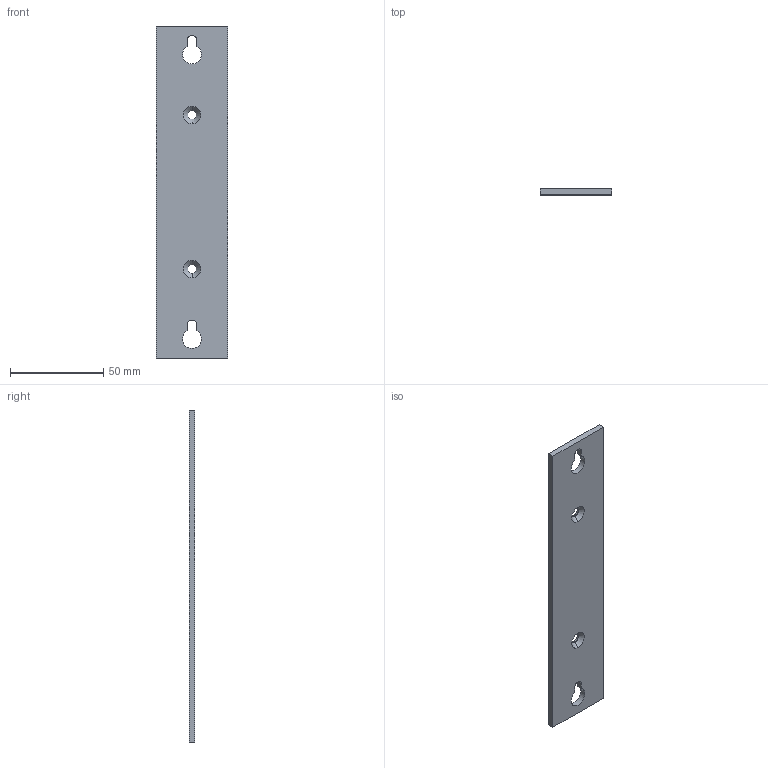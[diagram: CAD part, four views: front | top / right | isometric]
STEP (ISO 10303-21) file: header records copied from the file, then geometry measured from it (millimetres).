
FILE_DESCRIPTION((''),'2;1');
FILE_NAME('CU_CFP_PANEL_MOUNT_VER','2007-07-16T',('chrisj'),(''),'PRO/ENGINEER BY PARAMETRIC TECHNOLOGY CORPORATION, 2006300','PRO/ENGINEER BY PARAMETRIC TECHNOLOGY CORPORATION, 2006300','');
FILE_SCHEMA(('AUTOMOTIVE_DESIGN_CC2 { 1 2 10303 214 -1 1 5 2 }'));
Length unit declared in the file: inch
Products named in the file (1): CU_CFP_PANEL_MOUNT_VER
Bounding box: 38.1 x 3.17 x 177.8 mm (x, y, z)
Volume: 20619.7 mm3; surface area: 14755.4 mm2
Topology: 1 solids, 1 shells, 22 faces, 56 edges, 36 vertices
Faces by surface type: plane 10, cylinder 8, cone 4
Entity records: 735 total; most frequent: DIRECTION 120, CARTESIAN_POINT 114, ORIENTED_EDGE 112, EDGE_CURVE 56, AXIS2_PLACEMENT_3D 42, COLOUR_RGB 36, VECTOR 36, LINE 36
